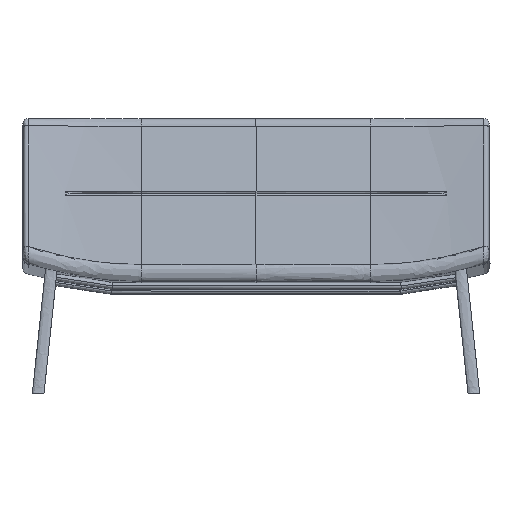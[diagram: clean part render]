
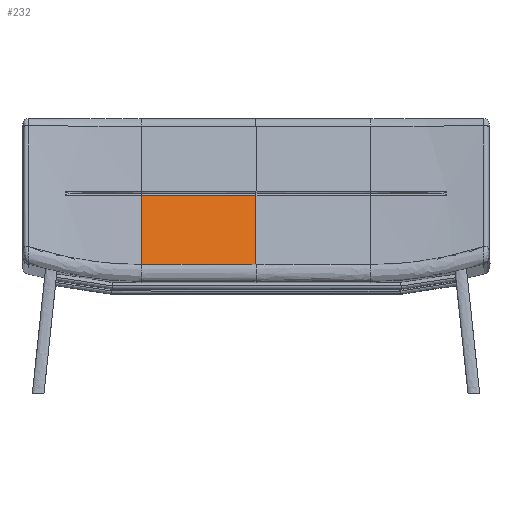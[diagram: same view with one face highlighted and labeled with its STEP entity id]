
A CAD part, front view. The second image highlights one B-rep face of the part: STEP entity #232.
In plain terms, the highlighted free-form (B-spline) face has degree [3, 5] with [6, 6] control points.
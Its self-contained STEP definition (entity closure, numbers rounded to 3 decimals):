
#232=ADVANCED_FACE('',(#384),#2287,.T.);
#384=FACE_OUTER_BOUND('',#536,.T.);
#536=EDGE_LOOP('',(#1058,#1059,#1060,#1061));
#1058=ORIENTED_EDGE('',*,*,#1529,.T.);
#1059=ORIENTED_EDGE('',*,*,#1500,.T.);
#1060=ORIENTED_EDGE('',*,*,#1507,.T.);
#1061=ORIENTED_EDGE('',*,*,#1506,.F.);
#1500=EDGE_CURVE('',#2139,#2120,#1861,.T.);
#1506=EDGE_CURVE('',#2141,#2142,#1867,.T.);
#1507=EDGE_CURVE('',#2120,#2142,#1868,.T.);
#1529=EDGE_CURVE('',#2141,#2139,#1890,.T.);
#1861=B_SPLINE_CURVE_WITH_KNOTS('',3,(#16519,#16520,#16521,#16522,#16523,
#16524),.UNSPECIFIED.,.F.,.F.,(4,2,4),(0.,200.703,226.76),
 .UNSPECIFIED.);
#1867=B_SPLINE_CURVE_WITH_KNOTS('',3,(#16567,#16568,#16569,#16570,#16571,
#16572),.UNSPECIFIED.,.F.,.F.,(4,2,4),(0.,200.703,226.76),
 .UNSPECIFIED.);
#1868=B_SPLINE_CURVE_WITH_KNOTS('',5,(#16573,#16574,#16575,#16576,#16577,
#16578),.UNSPECIFIED.,.F.,.F.,(6,6),(-654.445,-327.222),
 .UNSPECIFIED.);
#1890=B_SPLINE_CURVE_WITH_KNOTS('',5,(#17015,#17016,#17017,#17018,#17019,
#17020),.UNSPECIFIED.,.F.,.F.,(6,6),(327.222,654.445),
 .UNSPECIFIED.);
#2120=VERTEX_POINT('',#15942);
#2139=VERTEX_POINT('',#15961);
#2141=VERTEX_POINT('',#15963);
#2142=VERTEX_POINT('',#15964);
#2287=B_SPLINE_SURFACE_WITH_KNOTS('',3,5,((#9398,#9399,#9400,#9401,#9402,
#9403),(#9404,#9405,#9406,#9407,#9408,#9409),(#9410,#9411,#9412,#9413,#9414,
#9415),(#9416,#9417,#9418,#9419,#9420,#9421),(#9422,#9423,#9424,#9425,#9426,
#9427),(#9428,#9429,#9430,#9431,#9432,#9433)),.UNSPECIFIED.,.F.,.F.,.F.,
(4,2,4),(6,6),(-226.76,-200.703,0.),(0.,654.445),
 .UNSPECIFIED.);
#9398=CARTESIAN_POINT('',(-12.518,582.745,568.703));
#9399=CARTESIAN_POINT('',(-38.695,582.744,568.703));
#9400=CARTESIAN_POINT('',(-64.873,582.351,568.797));
#9401=CARTESIAN_POINT('',(-614.606,582.353,568.797));
#9402=CARTESIAN_POINT('',(-640.784,582.745,568.703));
#9403=CARTESIAN_POINT('',(-666.962,582.745,568.703));
#9404=CARTESIAN_POINT('',(-12.518,580.726,560.255));
#9405=CARTESIAN_POINT('',(-38.695,580.725,560.255));
#9406=CARTESIAN_POINT('',(-64.873,580.332,560.349));
#9407=CARTESIAN_POINT('',(-614.606,580.334,560.349));
#9408=CARTESIAN_POINT('',(-640.784,580.726,560.255));
#9409=CARTESIAN_POINT('',(-666.962,580.726,560.255));
#9410=CARTESIAN_POINT('',(-12.518,578.707,551.808));
#9411=CARTESIAN_POINT('',(-38.695,578.706,551.808));
#9412=CARTESIAN_POINT('',(-64.873,578.314,551.901));
#9413=CARTESIAN_POINT('',(-614.606,578.316,551.901));
#9414=CARTESIAN_POINT('',(-640.784,578.707,551.807));
#9415=CARTESIAN_POINT('',(-666.962,578.707,551.808));
#9416=CARTESIAN_POINT('',(-12.518,561.136,478.291));
#9417=CARTESIAN_POINT('',(-38.695,561.136,478.291));
#9418=CARTESIAN_POINT('',(-64.873,560.748,478.384));
#9419=CARTESIAN_POINT('',(-614.606,560.75,478.384));
#9420=CARTESIAN_POINT('',(-640.784,561.137,478.291));
#9421=CARTESIAN_POINT('',(-666.962,561.136,478.291));
#9422=CARTESIAN_POINT('',(-12.518,545.585,413.223));
#9423=CARTESIAN_POINT('',(-38.695,545.584,413.223));
#9424=CARTESIAN_POINT('',(-64.873,545.201,413.315));
#9425=CARTESIAN_POINT('',(-614.606,545.203,413.314));
#9426=CARTESIAN_POINT('',(-640.784,545.585,413.223));
#9427=CARTESIAN_POINT('',(-666.962,545.585,413.223));
#9428=CARTESIAN_POINT('',(-12.518,530.033,348.155));
#9429=CARTESIAN_POINT('',(-38.695,530.033,348.155));
#9430=CARTESIAN_POINT('',(-64.873,529.654,348.245));
#9431=CARTESIAN_POINT('',(-614.606,529.656,348.245));
#9432=CARTESIAN_POINT('',(-640.784,530.034,348.154));
#9433=CARTESIAN_POINT('',(-666.962,530.033,348.155));
#15942=CARTESIAN_POINT('',(-666.962,582.745,568.703));
#15961=CARTESIAN_POINT('',(-666.962,530.033,348.155));
#15963=CARTESIAN_POINT('',(-339.74,529.797,348.211));
#15964=CARTESIAN_POINT('',(-339.74,582.499,568.762));
#16519=CARTESIAN_POINT('',(-666.962,530.033,348.155));
#16520=CARTESIAN_POINT('',(-666.962,545.585,413.223));
#16521=CARTESIAN_POINT('',(-666.962,561.136,478.291));
#16522=CARTESIAN_POINT('',(-666.962,578.707,551.808));
#16523=CARTESIAN_POINT('',(-666.962,580.726,560.255));
#16524=CARTESIAN_POINT('',(-666.962,582.745,568.703));
#16567=CARTESIAN_POINT('',(-339.74,529.797,348.211));
#16568=CARTESIAN_POINT('',(-339.74,545.346,413.28));
#16569=CARTESIAN_POINT('',(-339.74,560.894,478.349));
#16570=CARTESIAN_POINT('',(-339.74,578.462,551.866));
#16571=CARTESIAN_POINT('',(-339.74,580.48,560.314));
#16572=CARTESIAN_POINT('',(-339.74,582.499,568.762));
#16573=CARTESIAN_POINT('',(-666.962,582.745,568.703));
#16574=CARTESIAN_POINT('',(-653.873,582.745,568.703));
#16575=CARTESIAN_POINT('',(-640.784,582.647,568.726));
#16576=CARTESIAN_POINT('',(-562.251,582.549,568.75));
#16577=CARTESIAN_POINT('',(-450.995,582.499,568.762));
#16578=CARTESIAN_POINT('',(-339.74,582.499,568.762));
#17015=CARTESIAN_POINT('',(-339.74,529.797,348.211));
#17016=CARTESIAN_POINT('',(-450.995,529.797,348.211));
#17017=CARTESIAN_POINT('',(-562.251,529.845,348.2));
#17018=CARTESIAN_POINT('',(-640.784,529.939,348.177));
#17019=CARTESIAN_POINT('',(-653.873,530.034,348.154));
#17020=CARTESIAN_POINT('',(-666.962,530.033,348.155));
